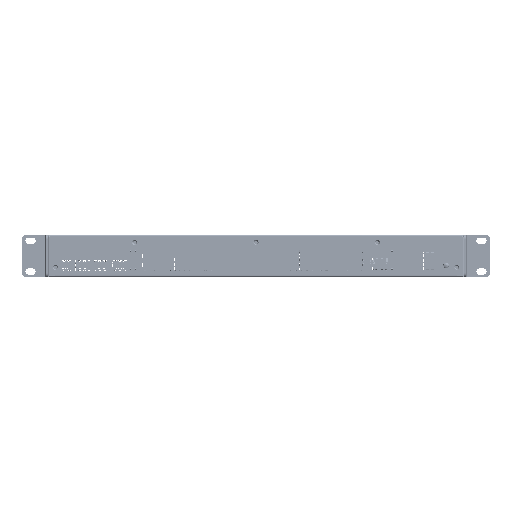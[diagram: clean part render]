
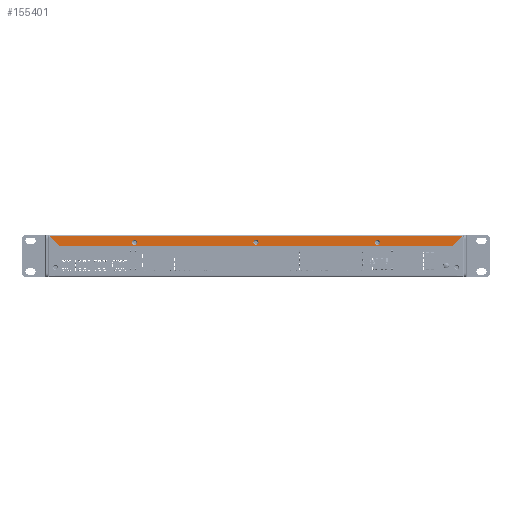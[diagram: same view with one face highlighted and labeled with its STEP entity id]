
A CAD part, top view. The second image highlights one B-rep face of the part: STEP entity #155401.
In plain terms, the highlighted planar face has unit normal (0, 0, 1).
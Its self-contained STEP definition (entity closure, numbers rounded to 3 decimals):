
#300 = AXIS2_PLACEMENT_3D ( 'NONE', #216146, #94821, #257867 ) ;
#411 = AXIS2_PLACEMENT_3D ( 'NONE', #161442, #165286, #164011 ) ;
#3618 = EDGE_LOOP ( 'NONE', ( #140888, #87785 ) ) ;
#4460 = EDGE_CURVE ( 'NONE', #193177, #197455, #62915, .T. ) ;
#9968 = CARTESIAN_POINT ( 'NONE',  ( 12.212, -11., 167.4 ) ) ;
#14260 = EDGE_CURVE ( 'NONE', #92080, #203200, #212850, .T. ) ;
#16876 = AXIS2_PLACEMENT_3D ( 'NONE', #110300, #170336, #249956 ) ;
#18486 = CARTESIAN_POINT ( 'NONE',  ( 0., -11., 167.4 ) ) ;
#21899 = EDGE_CURVE ( 'NONE', #197455, #193177, #98040, .T. ) ;
#23657 = VERTEX_POINT ( 'NONE', #55032 ) ;
#24649 = EDGE_LOOP ( 'NONE', ( #251514, #27400 ) ) ;
#26701 = CARTESIAN_POINT ( 'NONE',  ( 340., -7., 167.4 ) ) ;
#26925 = FACE_BOUND ( 'NONE', #3618, .T. ) ;
#27400 = ORIENTED_EDGE ( 'NONE', *, *, #117532, .T. ) ;
#27758 = LINE ( 'NONE', #189545, #179013 ) ;
#29350 = VERTEX_POINT ( 'NONE', #53719 ) ;
#30908 = VERTEX_POINT ( 'NONE', #192712 ) ;
#33124 = EDGE_LOOP ( 'NONE', ( #174130, #86423, #240040, #184763 ) ) ;
#34780 = CARTESIAN_POINT ( 'NONE',  ( 212.4, -7., 167.4 ) ) ;
#38947 = AXIS2_PLACEMENT_3D ( 'NONE', #45399, #242494, #162924 ) ;
#44254 = ORIENTED_EDGE ( 'NONE', *, *, #4460, .T. ) ;
#45399 = CARTESIAN_POINT ( 'NONE',  ( 215., -7., 167.4 ) ) ;
#48922 = EDGE_CURVE ( 'NONE', #29350, #30908, #231215, .T. ) ;
#50871 = CARTESIAN_POINT ( 'NONE',  ( 92.6, -7., 167.4 ) ) ;
#53719 = CARTESIAN_POINT ( 'NONE',  ( 1.912, -0.7, 167.4 ) ) ;
#55032 = CARTESIAN_POINT ( 'NONE',  ( 217.6, -7., 167.4 ) ) ;
#55837 = VERTEX_POINT ( 'NONE', #9968 ) ;
#58817 = AXIS2_PLACEMENT_3D ( 'NONE', #206209, #65320, #144940 ) ;
#62915 = CIRCLE ( 'NONE', #58817, 2.6 ) ;
#65320 = DIRECTION ( 'NONE',  ( 0., 0., -1. ) ) ;
#67519 = CIRCLE ( 'NONE', #300, 2.6 ) ;
#75558 = DIRECTION ( 'NONE',  ( 0., 0., -1. ) ) ;
#77845 = EDGE_CURVE ( 'NONE', #203200, #92080, #105004, .T. ) ;
#84389 = FACE_BOUND ( 'NONE', #24649, .T. ) ;
#86423 = ORIENTED_EDGE ( 'NONE', *, *, #48922, .F. ) ;
#87785 = ORIENTED_EDGE ( 'NONE', *, *, #14260, .T. ) ;
#90363 = DIRECTION ( 'NONE',  ( -0.707, 0.707, 0. ) ) ;
#91252 = CARTESIAN_POINT ( 'NONE',  ( 342.6, -7., 167.4 ) ) ;
#92080 = VERTEX_POINT ( 'NONE', #216475 ) ;
#94019 = VECTOR ( 'NONE', #206376, 1000. ) ;
#94821 = DIRECTION ( 'NONE',  ( 0., 0., -1. ) ) ;
#98040 = CIRCLE ( 'NONE', #235532, 2.6 ) ;
#99363 = DIRECTION ( 'NONE',  ( 1., 0., 0. ) ) ;
#103929 = PLANE ( 'NONE',  #411 ) ;
#105004 = CIRCLE ( 'NONE', #225720, 2.6 ) ;
#110300 = CARTESIAN_POINT ( 'NONE',  ( 340., -7., 167.4 ) ) ;
#115095 = LINE ( 'NONE', #18486, #160576 ) ;
#115921 = CARTESIAN_POINT ( 'NONE',  ( 87.4, -7., 167.4 ) ) ;
#117532 = EDGE_CURVE ( 'NONE', #126306, #23657, #151496, .T. ) ;
#120598 = EDGE_CURVE ( 'NONE', #55837, #173950, #115095, .T. ) ;
#126306 = VERTEX_POINT ( 'NONE', #34780 ) ;
#134219 = VECTOR ( 'NONE', #250819, 1000. ) ;
#140888 = ORIENTED_EDGE ( 'NONE', *, *, #77845, .T. ) ;
#142875 = CARTESIAN_POINT ( 'NONE',  ( 428.088, -0.7, 167.4 ) ) ;
#142906 = DIRECTION ( 'NONE',  ( 0., 1., 0. ) ) ;
#144940 = DIRECTION ( 'NONE',  ( 0., 1., 0. ) ) ;
#151496 = CIRCLE ( 'NONE', #38947, 2.6 ) ;
#153879 = CARTESIAN_POINT ( 'NONE',  ( 90., -7., 167.4 ) ) ;
#155401 = ADVANCED_FACE ( 'NONE', ( #84389, #26925, #180999, #242302 ), #103929, .F. ) ;
#160576 = VECTOR ( 'NONE', #99363, 1000. ) ;
#161442 = CARTESIAN_POINT ( 'NONE',  ( 0., 0., 167.4 ) ) ;
#162924 = DIRECTION ( 'NONE',  ( 0., 1., 0. ) ) ;
#164011 = DIRECTION ( 'NONE',  ( 0., 1., 0. ) ) ;
#165286 = DIRECTION ( 'NONE',  ( 0., 0., -1. ) ) ;
#169902 = CARTESIAN_POINT ( 'NONE',  ( 428.3, -0.7, 167.4 ) ) ;
#170336 = DIRECTION ( 'NONE',  ( 0., 0., -1. ) ) ;
#173950 = VERTEX_POINT ( 'NONE', #250914 ) ;
#174130 = ORIENTED_EDGE ( 'NONE', *, *, #192519, .F. ) ;
#177071 = ORIENTED_EDGE ( 'NONE', *, *, #21899, .T. ) ;
#179013 = VECTOR ( 'NONE', #90363, 1000. ) ;
#180754 = LINE ( 'NONE', #142875, #94019 ) ;
#180999 = FACE_BOUND ( 'NONE', #252065, .T. ) ;
#182191 = EDGE_CURVE ( 'NONE', #23657, #126306, #67519, .T. ) ;
#184763 = ORIENTED_EDGE ( 'NONE', *, *, #120598, .T. ) ;
#189545 = CARTESIAN_POINT ( 'NONE',  ( 303.353, -302.141, 167.4 ) ) ;
#192519 = EDGE_CURVE ( 'NONE', #30908, #173950, #180754, .T. ) ;
#192712 = CARTESIAN_POINT ( 'NONE',  ( 428.088, -0.7, 167.4 ) ) ;
#193177 = VERTEX_POINT ( 'NONE', #115921 ) ;
#197455 = VERTEX_POINT ( 'NONE', #50871 ) ;
#203200 = VERTEX_POINT ( 'NONE', #91252 ) ;
#206209 = CARTESIAN_POINT ( 'NONE',  ( 90., -7., 167.4 ) ) ;
#206376 = DIRECTION ( 'NONE',  ( -0.707, -0.707, 0. ) ) ;
#212850 = CIRCLE ( 'NONE', #16876, 2.6 ) ;
#216146 = CARTESIAN_POINT ( 'NONE',  ( 215., -7., 167.4 ) ) ;
#216475 = CARTESIAN_POINT ( 'NONE',  ( 337.4, -7., 167.4 ) ) ;
#225720 = AXIS2_PLACEMENT_3D ( 'NONE', #26701, #247219, #142906 ) ;
#231215 = LINE ( 'NONE', #169902, #134219 ) ;
#234735 = DIRECTION ( 'NONE',  ( 0., 1., 0. ) ) ;
#235532 = AXIS2_PLACEMENT_3D ( 'NONE', #153879, #75558, #234735 ) ;
#240040 = ORIENTED_EDGE ( 'NONE', *, *, #240357, .F. ) ;
#240357 = EDGE_CURVE ( 'NONE', #55837, #29350, #27758, .T. ) ;
#242302 = FACE_OUTER_BOUND ( 'NONE', #33124, .T. ) ;
#242494 = DIRECTION ( 'NONE',  ( 0., 0., -1. ) ) ;
#247219 = DIRECTION ( 'NONE',  ( 0., 0., -1. ) ) ;
#249956 = DIRECTION ( 'NONE',  ( 0., 1., 0. ) ) ;
#250819 = DIRECTION ( 'NONE',  ( 1., 0., 0. ) ) ;
#250914 = CARTESIAN_POINT ( 'NONE',  ( 417.788, -11., 167.4 ) ) ;
#251514 = ORIENTED_EDGE ( 'NONE', *, *, #182191, .T. ) ;
#252065 = EDGE_LOOP ( 'NONE', ( #177071, #44254 ) ) ;
#257867 = DIRECTION ( 'NONE',  ( 0., 1., 0. ) ) ;
